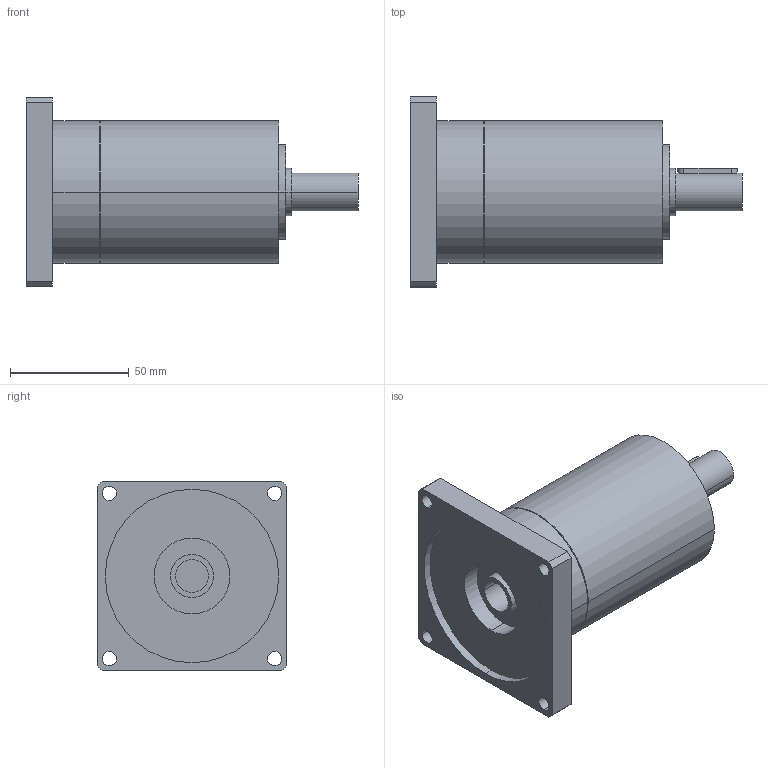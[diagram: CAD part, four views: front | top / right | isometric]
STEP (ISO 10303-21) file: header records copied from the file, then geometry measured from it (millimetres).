
FILE_DESCRIPTION(('CoCreate Modeling STEP Export'),'2;1');
FILE_NAME('GPR75_ig-9-12-16-20-24-30-36_16_B14_14_P06.stp','2014-08-25T16:45:10',(''),(''),'CoCreate Modeling STEP processor for AP214 (Solid Model)','CoCreate Modeling 16.00C 25-Feb-2009 (C) Parametric Technology GmbH','');
FILE_SCHEMA(('AUTOMOTIVE_DESIGN { 1 0 10303 214 1 1 1 1 }'));
Length unit declared in the file: millimetre
Products named in the file (2): GPR75_ig-9-12-16-20-24-30-36_16_B14_14_P06
Assembly tree (1 placements, depth 2):
  GPR75_ig-9-12-16-20-24-30-36_16_B14_14_P06
    GPR75_ig-9-12-16-20-24-30-36_16_B14_14_P06
Bounding box: 139.9 x 80 x 80 mm (x, y, z)
Volume: 324304.2 mm3; surface area: 40923.2 mm2
Topology: 1 solids, 1 shells, 70 faces, 188 edges, 132 vertices
Faces by surface type: cylinder 42, plane 22, cone 6
Entity records: 1939 total; most frequent: ORIENTED_EDGE 372, CARTESIAN_POINT 360, DIRECTION 262, EDGE_CURVE 186, VERTEX_POINT 132, AXIS2_PLACEMENT_3D 98, EDGE_LOOP 92, FACE_OUTER_BOUND 70
